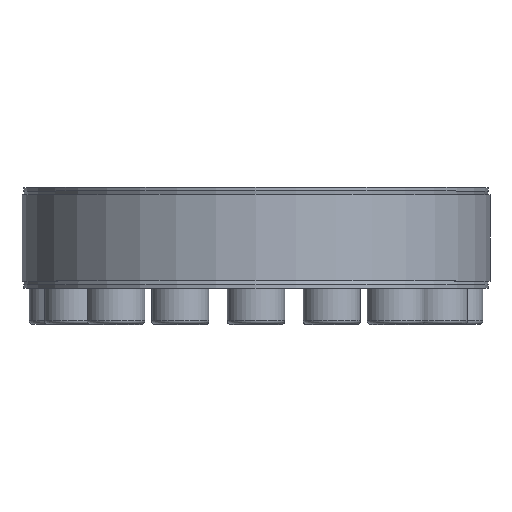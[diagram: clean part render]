
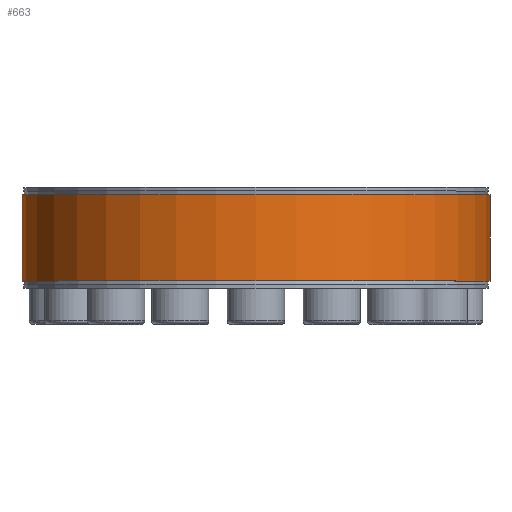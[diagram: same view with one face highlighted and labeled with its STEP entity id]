
A CAD part, top view. The second image highlights one B-rep face of the part: STEP entity #663.
In plain terms, the highlighted cylindrical face has radius 65 mm (diameter 130 mm), a partial arc.
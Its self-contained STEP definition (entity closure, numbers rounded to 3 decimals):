
#663 = ADVANCED_FACE( '', ( #1304 ), #1305, .T. );
#1304 = FACE_OUTER_BOUND( '', #2429, .T. );
#1305 = CYLINDRICAL_SURFACE( '', #2430, 65. );
#2429 = EDGE_LOOP( '', ( #3647, #3648, #3649, #3650 ) );
#2430 = AXIS2_PLACEMENT_3D( '', #3651, #3652, #3653 );
#3647 = ORIENTED_EDGE( '', *, *, #6218, .F. );
#3648 = ORIENTED_EDGE( '', *, *, #6219, .T. );
#3649 = ORIENTED_EDGE( '', *, *, #6220, .T. );
#3650 = ORIENTED_EDGE( '', *, *, #6221, .F. );
#3651 = CARTESIAN_POINT( '', ( 0., -60., 0. ) );
#3652 = DIRECTION( '', ( 0., -1., 0. ) );
#3653 = DIRECTION( '', ( 0., 0., 1. ) );
#6218 = EDGE_CURVE( '', #6953, #6954, #6955, .F. );
#6219 = EDGE_CURVE( '', #6953, #6956, #6957, .T. );
#6220 = EDGE_CURVE( '', #6956, #6958, #6959, .F. );
#6221 = EDGE_CURVE( '', #6954, #6958, #6960, .T. );
#6953 = VERTEX_POINT( '', #8009 );
#6954 = VERTEX_POINT( '', #8010 );
#6955 = LINE( '', #8011, #8012 );
#6956 = VERTEX_POINT( '', #8013 );
#6957 = CIRCLE( '', #8014, 65. );
#6958 = VERTEX_POINT( '', #8015 );
#6959 = LINE( '', #8016, #8017 );
#6960 = CIRCLE( '', #8018, 65. );
#8009 = CARTESIAN_POINT( '', ( 1.083, 12., -64.991 ) );
#8010 = CARTESIAN_POINT( '', ( 1.083, -12., -64.991 ) );
#8011 = CARTESIAN_POINT( '', ( 1.083, -60., -64.991 ) );
#8012 = VECTOR( '', #9964, 1000. );
#8013 = CARTESIAN_POINT( '', ( -1.083, 12., -64.991 ) );
#8014 = AXIS2_PLACEMENT_3D( '', #9965, #9966, #9967 );
#8015 = CARTESIAN_POINT( '', ( -1.083, -12., -64.991 ) );
#8016 = CARTESIAN_POINT( '', ( -1.083, -60., -64.991 ) );
#8017 = VECTOR( '', #9968, 1000. );
#8018 = AXIS2_PLACEMENT_3D( '', #9969, #9970, #9971 );
#9964 = DIRECTION( '', ( 0., 1., 0. ) );
#9965 = CARTESIAN_POINT( '', ( 0., 12., 0. ) );
#9966 = DIRECTION( '', ( 0., -1., 0. ) );
#9967 = DIRECTION( '', ( 0., 0., -1. ) );
#9968 = DIRECTION( '', ( 0., 1., 0. ) );
#9969 = CARTESIAN_POINT( '', ( 0., -12., 0. ) );
#9970 = DIRECTION( '', ( 0., -1., 0. ) );
#9971 = DIRECTION( '', ( 0., 0., -1. ) );
